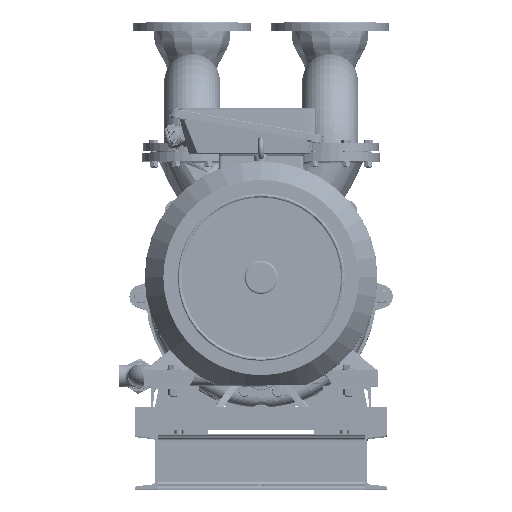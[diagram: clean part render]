
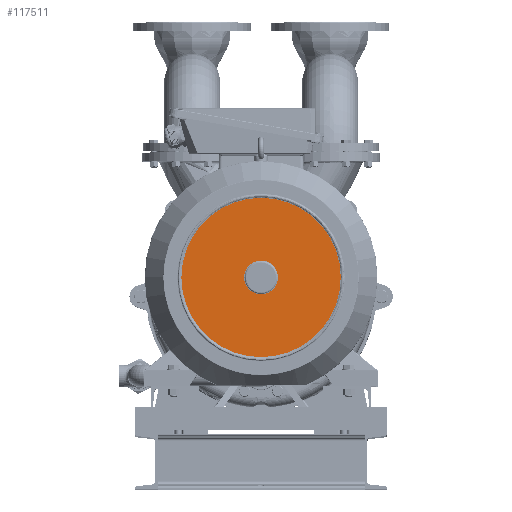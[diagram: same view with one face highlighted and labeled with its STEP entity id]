
A CAD part, top view. The second image highlights one B-rep face of the part: STEP entity #117511.
In plain terms, the highlighted planar face has unit normal (0, 0, 1).
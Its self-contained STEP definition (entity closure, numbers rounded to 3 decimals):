
#7598 = CARTESIAN_POINT ( 'NONE',  ( 0., 52., 1765.1 ) ) ;
#7768 = CARTESIAN_POINT ( 'NONE',  ( 0., 52., 1765.1 ) ) ;
#17189 = VERTEX_POINT ( 'NONE', #86709 ) ;
#25320 = AXIS2_PLACEMENT_3D ( 'NONE', #7768, #267330, #235175 ) ;
#27698 = ORIENTED_EDGE ( 'NONE', *, *, #46574, .T. ) ;
#30948 = DIRECTION ( 'NONE',  ( 0., 0., 1. ) ) ;
#36800 = DIRECTION ( 'NONE',  ( 0., 0., 1. ) ) ;
#38469 = DIRECTION ( 'NONE',  ( 0., 0., -1. ) ) ;
#43467 = CIRCLE ( 'NONE', #25320, 49. ) ;
#46574 = EDGE_CURVE ( 'NONE', #128467, #17189, #139144, .T. ) ;
#51092 = AXIS2_PLACEMENT_3D ( 'NONE', #161496, #38469, #299902 ) ;
#66243 = DIRECTION ( 'NONE',  ( -1., 0., 0. ) ) ;
#66961 = ORIENTED_EDGE ( 'NONE', *, *, #118744, .T. ) ;
#72504 = PLANE ( 'NONE',  #51092 ) ;
#77582 = VERTEX_POINT ( 'NONE', #305464 ) ;
#83458 = CARTESIAN_POINT ( 'NONE',  ( 0., 101., 1765.1 ) ) ;
#86709 = CARTESIAN_POINT ( 'NONE',  ( -231., 52., 1765.1 ) ) ;
#88124 = AXIS2_PLACEMENT_3D ( 'NONE', #7598, #329610, #66243 ) ;
#97420 = DIRECTION ( 'NONE',  ( 0., -1., 0. ) ) ;
#112062 = CARTESIAN_POINT ( 'NONE',  ( 231., 52., 1765.1 ) ) ;
#115326 = EDGE_LOOP ( 'NONE', ( #176911, #130239 ) ) ;
#117511 = ADVANCED_FACE ( 'NONE', ( #332137, #328347 ), #72504, .F. ) ;
#118744 = EDGE_CURVE ( 'NONE', #17189, #128467, #354070, .T. ) ;
#126571 = VERTEX_POINT ( 'NONE', #83458 ) ;
#128467 = VERTEX_POINT ( 'NONE', #112062 ) ;
#128585 = EDGE_CURVE ( 'NONE', #126571, #77582, #43467, .T. ) ;
#130239 = ORIENTED_EDGE ( 'NONE', *, *, #128585, .F. ) ;
#139144 = CIRCLE ( 'NONE', #350947, 231. ) ;
#161496 = CARTESIAN_POINT ( 'NONE',  ( 233.772, -181.772, 1765.1 ) ) ;
#171180 = DIRECTION ( 'NONE',  ( -1., 0., 0. ) ) ;
#176911 = ORIENTED_EDGE ( 'NONE', *, *, #335071, .F. ) ;
#182808 = AXIS2_PLACEMENT_3D ( 'NONE', #214864, #36800, #97420 ) ;
#196467 = EDGE_LOOP ( 'NONE', ( #66961, #27698 ) ) ;
#214864 = CARTESIAN_POINT ( 'NONE',  ( 0., 52., 1765.1 ) ) ;
#235175 = DIRECTION ( 'NONE',  ( 0., -1., 0. ) ) ;
#255362 = CIRCLE ( 'NONE', #182808, 49. ) ;
#267330 = DIRECTION ( 'NONE',  ( 0., 0., 1. ) ) ;
#288694 = CARTESIAN_POINT ( 'NONE',  ( 0., 52., 1765.1 ) ) ;
#299902 = DIRECTION ( 'NONE',  ( -1., 0., 0. ) ) ;
#305464 = CARTESIAN_POINT ( 'NONE',  ( 0., 3., 1765.1 ) ) ;
#328347 = FACE_OUTER_BOUND ( 'NONE', #196467, .T. ) ;
#329610 = DIRECTION ( 'NONE',  ( 0., 0., 1. ) ) ;
#332137 = FACE_BOUND ( 'NONE', #115326, .T. ) ;
#335071 = EDGE_CURVE ( 'NONE', #77582, #126571, #255362, .T. ) ;
#350947 = AXIS2_PLACEMENT_3D ( 'NONE', #288694, #30948, #171180 ) ;
#354070 = CIRCLE ( 'NONE', #88124, 231. ) ;
